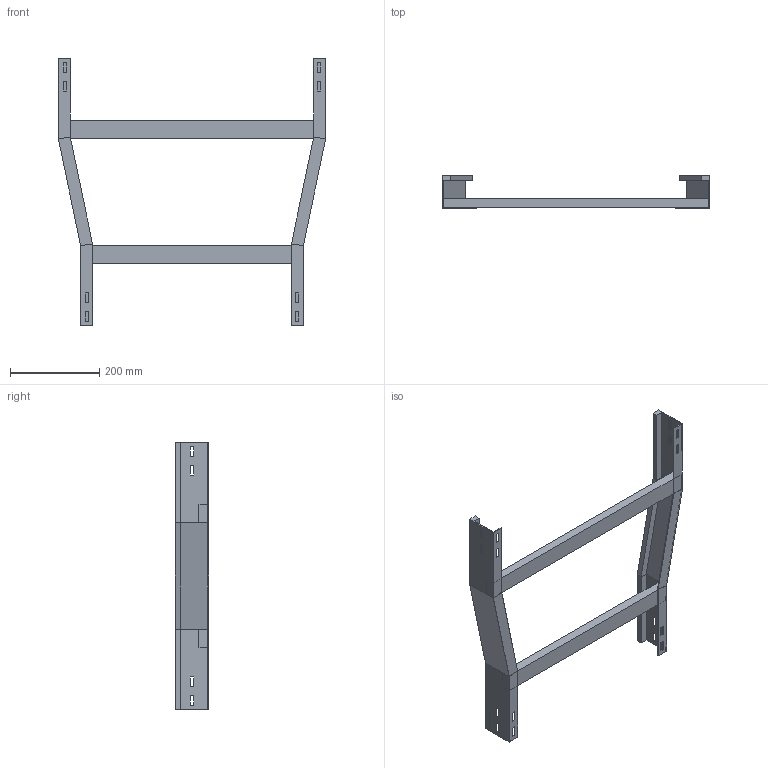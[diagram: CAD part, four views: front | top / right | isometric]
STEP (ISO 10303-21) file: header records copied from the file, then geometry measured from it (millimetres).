
FILE_DESCRIPTION (( 'STEP AP214' ), '1' );
FILE_NAME ('B2X20B5C600XX.step', '2025-09-02T17:14:43', ( '' ), ( '' ), 'SwSTEP 2.0', 'SolidWorks 2023', '' );
FILE_SCHEMA (( 'AUTOMOTIVE_DESIGN' ));
Length unit declared in the file: millimetre
Products named in the file (4): TRAVERSINO_600; SPONDA RID. CENTRALE 600-500_H75; B2X20B5C600XX; TRAVERSINO_500
Assembly tree (3 placements, depth 2):
  B2X20B5C600XX
    SPONDA RID. CENTRALE 600-500_H75
    TRAVERSINO_500
    TRAVERSINO_600
Bounding box: 600 x 75 x 600 mm (x, y, z)
Volume: 1354032 mm3; surface area: 419500.2 mm2
Topology: 4 solids, 4 shells, 128 faces, 328 edges, 208 vertices
Faces by surface type: plane 128
Entity records: 3950 total; most frequent: CARTESIAN_POINT 670, ORIENTED_EDGE 656, DIRECTION 596, LINE 328, VECTOR 328, EDGE_CURVE 328, VERTEX_POINT 208, EDGE_LOOP 160
